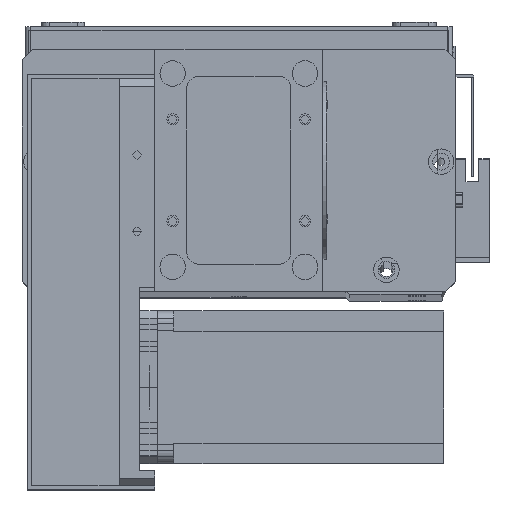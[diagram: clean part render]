
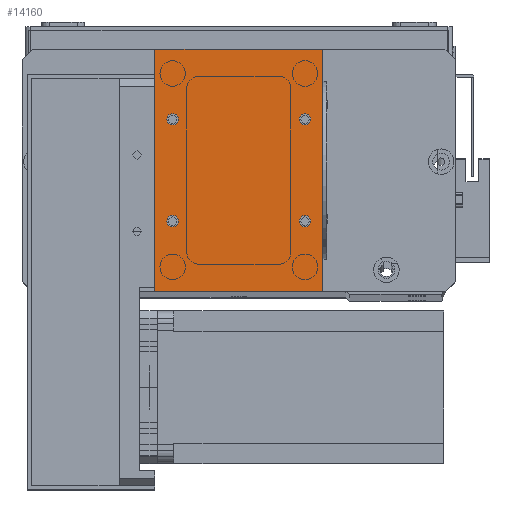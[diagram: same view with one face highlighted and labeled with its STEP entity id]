
A CAD part, top view. The second image highlights one B-rep face of the part: STEP entity #14160.
In plain terms, the highlighted planar face has unit normal (0, 0, 1).
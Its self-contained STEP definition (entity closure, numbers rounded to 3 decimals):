
#8 = PLANE ( 'NONE',  #12936 ) ;
#15 = CARTESIAN_POINT ( 'NONE',  ( 66., 95., 2. ) ) ;
#209 = VERTEX_POINT ( 'NONE', #22697 ) ;
#988 = ORIENTED_EDGE ( 'NONE', *, *, #4612, .F. ) ;
#1060 = VECTOR ( 'NONE', #19409, 1000. ) ;
#1152 = AXIS2_PLACEMENT_3D ( 'NONE', #13672, #31192, #16189 ) ;
#1305 = CARTESIAN_POINT ( 'NONE',  ( 9.25, 67.5, 2. ) ) ;
#1342 = EDGE_LOOP ( 'NONE', ( #28146, #13792 ) ) ;
#1357 = EDGE_CURVE ( 'NONE', #30373, #26434, #11616, .T. ) ;
#1561 = EDGE_CURVE ( 'NONE', #28824, #16098, #7746, .T. ) ;
#1839 = LINE ( 'NONE', #6952, #1060 ) ;
#2031 = CIRCLE ( 'NONE', #3085, 2.25 ) ;
#2110 = DIRECTION ( 'NONE',  ( 0., 0., 1. ) ) ;
#3085 = AXIS2_PLACEMENT_3D ( 'NONE', #26541, #11543, #29073 ) ;
#3098 = CARTESIAN_POINT ( 'NONE',  ( 0., 0., 2. ) ) ;
#3167 = EDGE_LOOP ( 'NONE', ( #27614, #22206, #17073, #23403 ) ) ;
#3427 = VECTOR ( 'NONE', #32164, 1000. ) ;
#3436 = FACE_BOUND ( 'NONE', #20365, .T. ) ;
#3487 = CARTESIAN_POINT ( 'NONE',  ( 7., 27.5, 2. ) ) ;
#3824 = CARTESIAN_POINT ( 'NONE',  ( 56.75, 67.5, 2. ) ) ;
#4194 = LINE ( 'NONE', #19693, #3427 ) ;
#4343 = EDGE_CURVE ( 'NONE', #4857, #22874, #4194, .T. ) ;
#4612 = EDGE_CURVE ( 'NONE', #19390, #26366, #22958, .T. ) ;
#4857 = VERTEX_POINT ( 'NONE', #15 ) ;
#5976 = DIRECTION ( 'NONE',  ( 1., 0., 0. ) ) ;
#6528 = ORIENTED_EDGE ( 'NONE', *, *, #14922, .F. ) ;
#6856 = CIRCLE ( 'NONE', #28339, 2.25 ) ;
#6952 = CARTESIAN_POINT ( 'NONE',  ( 0., 0., 2. ) ) ;
#7366 = DIRECTION ( 'NONE',  ( 0., 0., 1. ) ) ;
#7535 = DIRECTION ( 'NONE',  ( -1., 0., 0. ) ) ;
#7701 = DIRECTION ( 'NONE',  ( 0., 0., 1. ) ) ;
#7746 = LINE ( 'NONE', #8864, #26876 ) ;
#7755 = AXIS2_PLACEMENT_3D ( 'NONE', #3487, #20932, #5976 ) ;
#7790 = CIRCLE ( 'NONE', #17592, 2.25 ) ;
#8864 = CARTESIAN_POINT ( 'NONE',  ( 0., 0., 2. ) ) ;
#9657 = ORIENTED_EDGE ( 'NONE', *, *, #23356, .F. ) ;
#10062 = FACE_BOUND ( 'NONE', #23127, .T. ) ;
#10534 = CARTESIAN_POINT ( 'NONE',  ( 0., 95., 2. ) ) ;
#10600 = EDGE_CURVE ( 'NONE', #26434, #30373, #25755, .T. ) ;
#10765 = AXIS2_PLACEMENT_3D ( 'NONE', #17101, #2110, #19604 ) ;
#11543 = DIRECTION ( 'NONE',  ( 0., 0., 1. ) ) ;
#11616 = CIRCLE ( 'NONE', #22003, 2.25 ) ;
#12419 = EDGE_CURVE ( 'NONE', #16098, #4857, #21446, .T. ) ;
#12936 = AXIS2_PLACEMENT_3D ( 'NONE', #17489, #22527, #7535 ) ;
#13043 = ORIENTED_EDGE ( 'NONE', *, *, #21210, .F. ) ;
#13346 = CARTESIAN_POINT ( 'NONE',  ( 59., 67.5, 2. ) ) ;
#13672 = CARTESIAN_POINT ( 'NONE',  ( 7., 27.5, 2. ) ) ;
#13792 = ORIENTED_EDGE ( 'NONE', *, *, #31477, .F. ) ;
#13869 = CARTESIAN_POINT ( 'NONE',  ( 9.25, 27.5, 2. ) ) ;
#13877 = VERTEX_POINT ( 'NONE', #1305 ) ;
#14160 = ADVANCED_FACE ( 'NONE', ( #16706, #22592, #3436, #10062, #15934 ), #8, .F. ) ;
#14922 = EDGE_CURVE ( 'NONE', #26366, #19390, #28011, .T. ) ;
#15911 = DIRECTION ( 'NONE',  ( 1., 0., 0. ) ) ;
#15934 = FACE_OUTER_BOUND ( 'NONE', #3167, .T. ) ;
#16098 = VERTEX_POINT ( 'NONE', #30719 ) ;
#16189 = DIRECTION ( 'NONE',  ( 1., 0., 0. ) ) ;
#16264 = VERTEX_POINT ( 'NONE', #3824 ) ;
#16376 = DIRECTION ( 'NONE',  ( 1., 0., 0. ) ) ;
#16465 = DIRECTION ( 'NONE',  ( 0., 0., 1. ) ) ;
#16500 = CARTESIAN_POINT ( 'NONE',  ( 4.75, 27.5, 2. ) ) ;
#16561 = CARTESIAN_POINT ( 'NONE',  ( 59., 27.5, 2. ) ) ;
#16706 = FACE_BOUND ( 'NONE', #1342, .T. ) ;
#16726 = CARTESIAN_POINT ( 'NONE',  ( 61.25, 27.5, 2. ) ) ;
#16986 = CARTESIAN_POINT ( 'NONE',  ( 56.75, 27.5, 2. ) ) ;
#17073 = ORIENTED_EDGE ( 'NONE', *, *, #12419, .T. ) ;
#17101 = CARTESIAN_POINT ( 'NONE',  ( 59., 27.5, 2. ) ) ;
#17131 = ORIENTED_EDGE ( 'NONE', *, *, #1357, .F. ) ;
#17154 = AXIS2_PLACEMENT_3D ( 'NONE', #22670, #7701, #25169 ) ;
#17489 = CARTESIAN_POINT ( 'NONE',  ( 0., 0., 2. ) ) ;
#17592 = AXIS2_PLACEMENT_3D ( 'NONE', #22330, #7366, #24843 ) ;
#18428 = EDGE_LOOP ( 'NONE', ( #9657, #13043 ) ) ;
#19390 = VERTEX_POINT ( 'NONE', #13869 ) ;
#19409 = DIRECTION ( 'NONE',  ( 0., -1., 0. ) ) ;
#19557 = CARTESIAN_POINT ( 'NONE',  ( 66., 0., 2. ) ) ;
#19604 = DIRECTION ( 'NONE',  ( 1., 0., 0. ) ) ;
#19693 = CARTESIAN_POINT ( 'NONE',  ( 0., 95., 2. ) ) ;
#20365 = EDGE_LOOP ( 'NONE', ( #30621, #17131 ) ) ;
#20932 = DIRECTION ( 'NONE',  ( 0., 0., 1. ) ) ;
#21034 = CIRCLE ( 'NONE', #17154, 2.25 ) ;
#21210 = EDGE_CURVE ( 'NONE', #16264, #209, #6856, .T. ) ;
#21446 = LINE ( 'NONE', #19557, #25771 ) ;
#22003 = AXIS2_PLACEMENT_3D ( 'NONE', #16561, #16465, #16376 ) ;
#22206 = ORIENTED_EDGE ( 'NONE', *, *, #1561, .T. ) ;
#22330 = CARTESIAN_POINT ( 'NONE',  ( 7., 67.5, 2. ) ) ;
#22527 = DIRECTION ( 'NONE',  ( 0., 0., -1. ) ) ;
#22592 = FACE_BOUND ( 'NONE', #18428, .T. ) ;
#22670 = CARTESIAN_POINT ( 'NONE',  ( 7., 67.5, 2. ) ) ;
#22697 = CARTESIAN_POINT ( 'NONE',  ( 61.25, 67.5, 2. ) ) ;
#22874 = VERTEX_POINT ( 'NONE', #10534 ) ;
#22958 = CIRCLE ( 'NONE', #1152, 2.25 ) ;
#23127 = EDGE_LOOP ( 'NONE', ( #988, #6528 ) ) ;
#23356 = EDGE_CURVE ( 'NONE', #209, #16264, #2031, .T. ) ;
#23403 = ORIENTED_EDGE ( 'NONE', *, *, #4343, .T. ) ;
#24481 = VERTEX_POINT ( 'NONE', #28814 ) ;
#24597 = DIRECTION ( 'NONE',  ( 0., 1., 0. ) ) ;
#24843 = DIRECTION ( 'NONE',  ( 1., 0., 0. ) ) ;
#25169 = DIRECTION ( 'NONE',  ( 1., 0., 0. ) ) ;
#25725 = EDGE_CURVE ( 'NONE', #22874, #28824, #1839, .T. ) ;
#25755 = CIRCLE ( 'NONE', #10765, 2.25 ) ;
#25771 = VECTOR ( 'NONE', #24597, 1000. ) ;
#26366 = VERTEX_POINT ( 'NONE', #16500 ) ;
#26434 = VERTEX_POINT ( 'NONE', #16726 ) ;
#26457 = DIRECTION ( 'NONE',  ( 1., 0., 0. ) ) ;
#26541 = CARTESIAN_POINT ( 'NONE',  ( 59., 67.5, 2. ) ) ;
#26876 = VECTOR ( 'NONE', #26457, 1000. ) ;
#27614 = ORIENTED_EDGE ( 'NONE', *, *, #25725, .T. ) ;
#28011 = CIRCLE ( 'NONE', #7755, 2.25 ) ;
#28146 = ORIENTED_EDGE ( 'NONE', *, *, #31055, .F. ) ;
#28339 = AXIS2_PLACEMENT_3D ( 'NONE', #13346, #30889, #15911 ) ;
#28814 = CARTESIAN_POINT ( 'NONE',  ( 4.75, 67.5, 2. ) ) ;
#28824 = VERTEX_POINT ( 'NONE', #3098 ) ;
#29073 = DIRECTION ( 'NONE',  ( 1., 0., 0. ) ) ;
#30373 = VERTEX_POINT ( 'NONE', #16986 ) ;
#30621 = ORIENTED_EDGE ( 'NONE', *, *, #10600, .F. ) ;
#30719 = CARTESIAN_POINT ( 'NONE',  ( 66., 0., 2. ) ) ;
#30889 = DIRECTION ( 'NONE',  ( 0., 0., 1. ) ) ;
#31055 = EDGE_CURVE ( 'NONE', #13877, #24481, #21034, .T. ) ;
#31192 = DIRECTION ( 'NONE',  ( 0., 0., 1. ) ) ;
#31477 = EDGE_CURVE ( 'NONE', #24481, #13877, #7790, .T. ) ;
#32164 = DIRECTION ( 'NONE',  ( -1., 0., 0. ) ) ;
